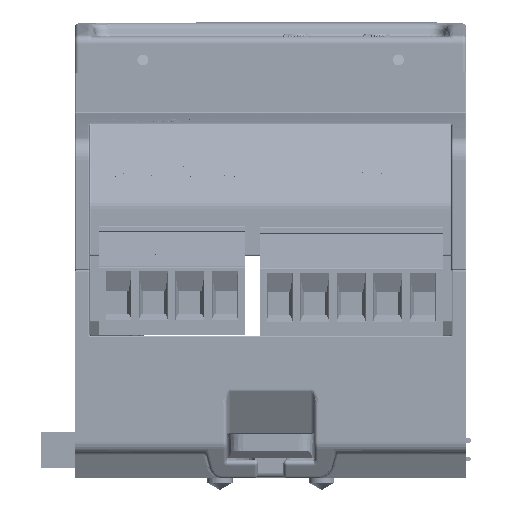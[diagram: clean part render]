
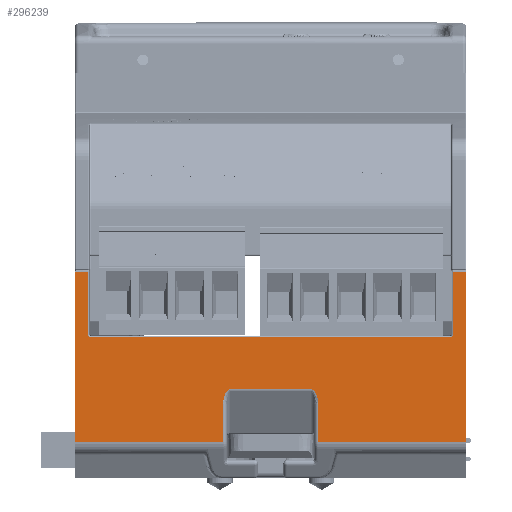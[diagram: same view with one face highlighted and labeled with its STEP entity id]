
A CAD part, front view. The second image highlights one B-rep face of the part: STEP entity #296239.
In plain terms, the highlighted planar face has unit normal (0, -1, 0).
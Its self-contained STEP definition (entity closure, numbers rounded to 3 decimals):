
#5905 = LINE ( 'NONE', #79093, #51425 ) ;
#11573 = AXIS2_PLACEMENT_3D ( 'NONE', #19700, #313254, #259753 ) ;
#12716 = LINE ( 'NONE', #209404, #128619 ) ;
#19700 = CARTESIAN_POINT ( 'NONE',  ( -26.8, -56., 0. ) ) ;
#24562 = CARTESIAN_POINT ( 'NONE',  ( 26.8, -56., -23.574 ) ) ;
#25236 = ORIENTED_EDGE ( 'NONE', *, *, #326822, .T. ) ;
#29188 = LINE ( 'NONE', #233747, #294904 ) ;
#32949 = DIRECTION ( 'NONE',  ( 0., 0., 1. ) ) ;
#33244 = EDGE_CURVE ( 'NONE', #58072, #65193, #180149, .T. ) ;
#36173 = DIRECTION ( 'NONE',  ( 1., 0., 0. ) ) ;
#37196 = EDGE_CURVE ( 'NONE', #273037, #163471, #29188, .T. ) ;
#39263 = ORIENTED_EDGE ( 'NONE', *, *, #267701, .T. ) ;
#46173 = ORIENTED_EDGE ( 'NONE', *, *, #296086, .F. ) ;
#48556 = DIRECTION ( 'NONE',  ( -1., 0., 0. ) ) ;
#51425 = VECTOR ( 'NONE', #234513, 1000. ) ;
#52861 = DIRECTION ( 'NONE',  ( -1., 0., 0. ) ) ;
#55092 = CARTESIAN_POINT ( 'NONE',  ( 6.5, -56., -23.574 ) ) ;
#56888 = CIRCLE ( 'NONE', #110273, 0.4 ) ;
#57789 = LINE ( 'NONE', #242945, #61876 ) ;
#58072 = VERTEX_POINT ( 'NONE', #117948 ) ;
#59384 = EDGE_CURVE ( 'NONE', #120703, #205791, #57789, .T. ) ;
#60894 = CARTESIAN_POINT ( 'NONE',  ( 24.6, -56., -9.2 ) ) ;
#61876 = VECTOR ( 'NONE', #32949, 1000. ) ;
#64548 = LINE ( 'NONE', #321588, #280475 ) ;
#65193 = VERTEX_POINT ( 'NONE', #300283 ) ;
#67413 = CARTESIAN_POINT ( 'NONE',  ( -5.5, -56., -16.304 ) ) ;
#68285 = CARTESIAN_POINT ( 'NONE',  ( 6.086, -56., -16.304 ) ) ;
#73188 = EDGE_CURVE ( 'NONE', #147927, #111969, #240017, .T. ) ;
#79093 = CARTESIAN_POINT ( 'NONE',  ( -6.5, -56., 0. ) ) ;
#80082 = DIRECTION ( 'NONE',  ( 1., 0., 0. ) ) ;
#82388 = CARTESIAN_POINT ( 'NONE',  ( 5.5, -56., -16.304 ) ) ;
#85500 = ORIENTED_EDGE ( 'NONE', *, *, #234608, .T. ) ;
#87119 = DIRECTION ( 'NONE',  ( 0., 0., -1. ) ) ;
#90009 = ORIENTED_EDGE ( 'NONE', *, *, #73188, .T. ) ;
#93540 = CIRCLE ( 'NONE', #331714, 0.4 ) ;
#95878 = VERTEX_POINT ( 'NONE', #60894 ) ;
#97046 = CARTESIAN_POINT ( 'NONE',  ( 6.5, -56., -17.132 ) ) ;
#100309 = CARTESIAN_POINT ( 'NONE',  ( 6.5, -56., -18.304 ) ) ;
#101740 = ORIENTED_EDGE ( 'NONE', *, *, #183009, .T. ) ;
#101812 = FACE_OUTER_BOUND ( 'NONE', #207469, .T. ) ;
#102011 = EDGE_CURVE ( 'NONE', #284956, #105907, #230225, .T. ) ;
#105907 = VERTEX_POINT ( 'NONE', #262449 ) ;
#107409 = CARTESIAN_POINT ( 'NONE',  ( -26.8, -56., -23.574 ) ) ;
#108721 = EDGE_CURVE ( 'NONE', #95878, #163471, #56888, .T. ) ;
#110273 = AXIS2_PLACEMENT_3D ( 'NONE', #139280, #325097, #87119 ) ;
#111969 = VERTEX_POINT ( 'NONE', #208222 ) ;
#115486 = ORIENTED_EDGE ( 'NONE', *, *, #223091, .T. ) ;
#117948 = CARTESIAN_POINT ( 'NONE',  ( -6.5, -56., -18.304 ) ) ;
#118729 = DIRECTION ( 'NONE',  ( 0., 0., 1. ) ) ;
#120500 = CARTESIAN_POINT ( 'NONE',  ( -6.086, -56., -16.304 ) ) ;
#120703 = VERTEX_POINT ( 'NONE', #107409 ) ;
#121030 = CARTESIAN_POINT ( 'NONE',  ( -25., -56., 0. ) ) ;
#122122 = ORIENTED_EDGE ( 'NONE', *, *, #102011, .T. ) ;
#125012 = VERTEX_POINT ( 'NONE', #82388 ) ;
#127401 = PLANE ( 'NONE',  #11573 ) ;
#128619 = VECTOR ( 'NONE', #52861, 1000. ) ;
#129205 = ORIENTED_EDGE ( 'NONE', *, *, #59384, .F. ) ;
#130082 = CARTESIAN_POINT ( 'NONE',  ( -25., -56., -8.8 ) ) ;
#130215 = ORIENTED_EDGE ( 'NONE', *, *, #331534, .T. ) ;
#133696 = CARTESIAN_POINT ( 'NONE',  ( 25., -56., -0.2 ) ) ;
#139280 = CARTESIAN_POINT ( 'NONE',  ( 24.6, -56., -8.8 ) ) ;
#141616 = CARTESIAN_POINT ( 'NONE',  ( -26.8, -56., -23.574 ) ) ;
#147730 = CARTESIAN_POINT ( 'NONE',  ( 26.8, -56., 0. ) ) ;
#147927 = VERTEX_POINT ( 'NONE', #24562 ) ;
#151003 = VERTEX_POINT ( 'NONE', #55092 ) ;
#163471 = VERTEX_POINT ( 'NONE', #237800 ) ;
#163553 = DIRECTION ( 'NONE',  ( -1., 0., 0. ) ) ;
#167533 = VECTOR ( 'NONE', #230502, 1000. ) ;
#171581 = CARTESIAN_POINT ( 'NONE',  ( -6.5, -56., -18.304 ) ) ;
#178452 = DIRECTION ( 'NONE',  ( 0., -1., 0. ) ) ;
#180149 =( BOUNDED_CURVE ( )  B_SPLINE_CURVE ( 3, ( #171581, #249468, #120500, #67413 ),
 .UNSPECIFIED., .F., .T. ) 
 B_SPLINE_CURVE_WITH_KNOTS ( ( 4, 4 ),
 ( 4.712, 6.283 ),
 .UNSPECIFIED. ) 
 CURVE ( )  GEOMETRIC_REPRESENTATION_ITEM ( )  RATIONAL_B_SPLINE_CURVE ( ( 1., 0.805, 0.805, 1. ) ) 
 REPRESENTATION_ITEM ( '' )  );
#180166 = VECTOR ( 'NONE', #36173, 1000. ) ;
#183009 = EDGE_CURVE ( 'NONE', #105907, #205791, #223740, .T. ) ;
#188533 = VERTEX_POINT ( 'NONE', #100309 ) ;
#192385 = ORIENTED_EDGE ( 'NONE', *, *, #222226, .T. ) ;
#198977 = LINE ( 'NONE', #206722, #232322 ) ;
#205791 = VERTEX_POINT ( 'NONE', #259055 ) ;
#206104 = CARTESIAN_POINT ( 'NONE',  ( -26.8, -56., -23.574 ) ) ;
#206722 = CARTESIAN_POINT ( 'NONE',  ( 6.5, -56., 0. ) ) ;
#207469 = EDGE_LOOP ( 'NONE', ( #122122, #101740, #129205, #192385, #25236, #253489, #215286, #115486, #85500, #245053, #90009, #130215, #278057, #320764, #39263, #46173 ) ) ;
#208222 = CARTESIAN_POINT ( 'NONE',  ( 26.8, -56., -0.2 ) ) ;
#209404 = CARTESIAN_POINT ( 'NONE',  ( -26.8, -56., -0.2 ) ) ;
#215286 = ORIENTED_EDGE ( 'NONE', *, *, #259115, .T. ) ;
#222226 = EDGE_CURVE ( 'NONE', #120703, #266077, #312910, .T. ) ;
#223091 = EDGE_CURVE ( 'NONE', #125012, #188533, #256610, .T. ) ;
#223740 = LINE ( 'NONE', #260776, #273492 ) ;
#226680 = CARTESIAN_POINT ( 'NONE',  ( -24.6, -56., -9.2 ) ) ;
#230125 = EDGE_CURVE ( 'NONE', #151003, #147927, #250887, .T. ) ;
#230225 = LINE ( 'NONE', #121030, #255284 ) ;
#230502 = DIRECTION ( 'NONE',  ( 1., 0., 0. ) ) ;
#232322 = VECTOR ( 'NONE', #312505, 1000. ) ;
#233747 = CARTESIAN_POINT ( 'NONE',  ( 25., -56., 0. ) ) ;
#234199 = DIRECTION ( 'NONE',  ( 0., 0., -1. ) ) ;
#234513 = DIRECTION ( 'NONE',  ( 0., 0., 1. ) ) ;
#234608 = EDGE_CURVE ( 'NONE', #188533, #151003, #198977, .T. ) ;
#237800 = CARTESIAN_POINT ( 'NONE',  ( 25., -56., -8.8 ) ) ;
#240017 = LINE ( 'NONE', #147730, #248388 ) ;
#242945 = CARTESIAN_POINT ( 'NONE',  ( -26.8, -56., 0. ) ) ;
#245053 = ORIENTED_EDGE ( 'NONE', *, *, #230125, .T. ) ;
#247075 = CARTESIAN_POINT ( 'NONE',  ( -26.8, -56., -16.304 ) ) ;
#248388 = VECTOR ( 'NONE', #279019, 1000. ) ;
#249468 = CARTESIAN_POINT ( 'NONE',  ( -6.5, -56., -17.132 ) ) ;
#250887 = LINE ( 'NONE', #141616, #180166 ) ;
#253489 = ORIENTED_EDGE ( 'NONE', *, *, #33244, .T. ) ;
#254206 = CARTESIAN_POINT ( 'NONE',  ( -6.5, -56., -23.574 ) ) ;
#255284 = VECTOR ( 'NONE', #118729, 1000. ) ;
#256610 =( BOUNDED_CURVE ( )  B_SPLINE_CURVE ( 3, ( #327024, #68285, #97046, #280454 ),
 .UNSPECIFIED., .F., .T. ) 
 B_SPLINE_CURVE_WITH_KNOTS ( ( 4, 4 ),
 ( 0., 1.571 ),
 .UNSPECIFIED. ) 
 CURVE ( )  GEOMETRIC_REPRESENTATION_ITEM ( )  RATIONAL_B_SPLINE_CURVE ( ( 1., 0.805, 0.805, 1. ) ) 
 REPRESENTATION_ITEM ( '' )  );
#259055 = CARTESIAN_POINT ( 'NONE',  ( -26.8, -56., -0.2 ) ) ;
#259115 = EDGE_CURVE ( 'NONE', #65193, #125012, #332441, .T. ) ;
#259753 = DIRECTION ( 'NONE',  ( 0., 0., -1. ) ) ;
#260776 = CARTESIAN_POINT ( 'NONE',  ( -26.8, -56., -0.2 ) ) ;
#262449 = CARTESIAN_POINT ( 'NONE',  ( -25., -56., -0.2 ) ) ;
#266077 = VERTEX_POINT ( 'NONE', #254206 ) ;
#267701 = EDGE_CURVE ( 'NONE', #95878, #312017, #64548, .T. ) ;
#273037 = VERTEX_POINT ( 'NONE', #133696 ) ;
#273492 = VECTOR ( 'NONE', #48556, 1000. ) ;
#278057 = ORIENTED_EDGE ( 'NONE', *, *, #37196, .T. ) ;
#279019 = DIRECTION ( 'NONE',  ( 0., 0., 1. ) ) ;
#280454 = CARTESIAN_POINT ( 'NONE',  ( 6.5, -56., -18.304 ) ) ;
#280475 = VECTOR ( 'NONE', #163553, 1000. ) ;
#284956 = VERTEX_POINT ( 'NONE', #130082 ) ;
#294904 = VECTOR ( 'NONE', #339395, 1000. ) ;
#296086 = EDGE_CURVE ( 'NONE', #284956, #312017, #93540, .T. ) ;
#296239 = ADVANCED_FACE ( 'NONE', ( #101812 ), #127401, .F. ) ;
#300283 = CARTESIAN_POINT ( 'NONE',  ( -5.5, -56., -16.304 ) ) ;
#312017 = VERTEX_POINT ( 'NONE', #226680 ) ;
#312505 = DIRECTION ( 'NONE',  ( 0., 0., -1. ) ) ;
#312910 = LINE ( 'NONE', #206104, #167533 ) ;
#313254 = DIRECTION ( 'NONE',  ( 0., 1., 0. ) ) ;
#315498 = CARTESIAN_POINT ( 'NONE',  ( -24.6, -56., -8.8 ) ) ;
#315781 = VECTOR ( 'NONE', #80082, 1000. ) ;
#320764 = ORIENTED_EDGE ( 'NONE', *, *, #108721, .F. ) ;
#321588 = CARTESIAN_POINT ( 'NONE',  ( -24.8, -56., -9.2 ) ) ;
#325097 = DIRECTION ( 'NONE',  ( 0., -1., 0. ) ) ;
#326822 = EDGE_CURVE ( 'NONE', #266077, #58072, #5905, .T. ) ;
#327024 = CARTESIAN_POINT ( 'NONE',  ( 5.5, -56., -16.304 ) ) ;
#331534 = EDGE_CURVE ( 'NONE', #111969, #273037, #12716, .T. ) ;
#331714 = AXIS2_PLACEMENT_3D ( 'NONE', #315498, #178452, #234199 ) ;
#332441 = LINE ( 'NONE', #247075, #315781 ) ;
#339395 = DIRECTION ( 'NONE',  ( 0., 0., -1. ) ) ;
